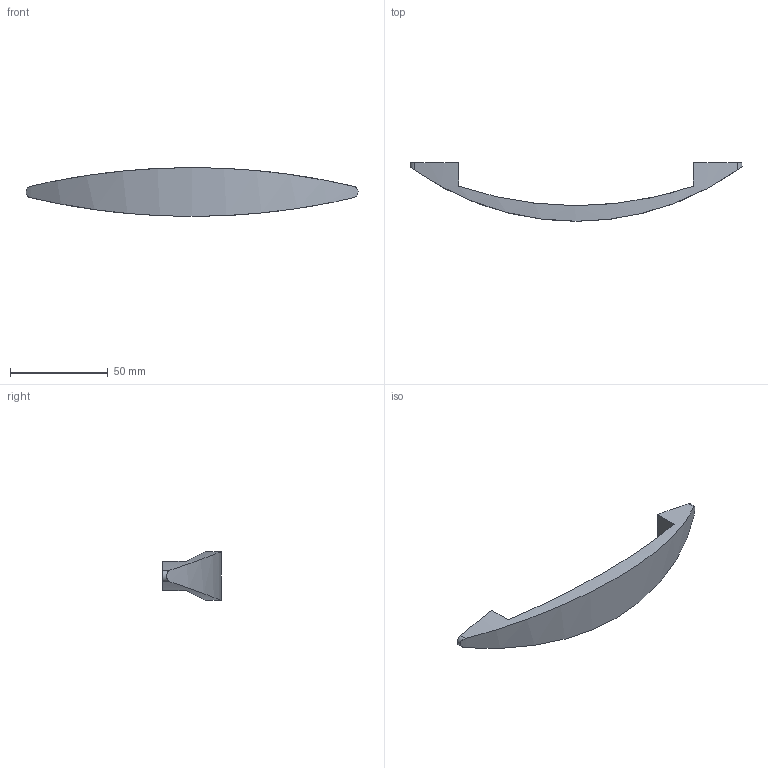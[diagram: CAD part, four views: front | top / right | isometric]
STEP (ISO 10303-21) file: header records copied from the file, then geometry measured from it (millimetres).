
FILE_DESCRIPTION( ( '' ), '1' );
FILE_NAME( 'C:/Documents and Settings/Sachin/Desktop/Sheet 10_1/stp/9113679.stp', '2013-10-22T09:29:12', ( '' ), ( '' ), ' ', ' ', ' ' );
FILE_SCHEMA( ( 'CONFIG_CONTROL_DESIGN' ) );
Length unit declared in the file: millimetre
Products named in the file (1): 1
Bounding box: 170 x 30 x 25 mm (x, y, z)
Volume: 23981.3 mm3; surface area: 9673.2 mm2
Topology: 1 solids, 1 shells, 16 faces, 40 edges, 28 vertices
Faces by surface type: cylinder 10, plane 6
Entity records: 692 total; most frequent: CARTESIAN_POINT 263, ORIENTED_EDGE 80, DIRECTION 78, EDGE_CURVE 40, AXIS2_PLACEMENT_3D 31, VERTEX_POINT 28, EDGE_LOOP 18, ADVANCED_FACE 16
